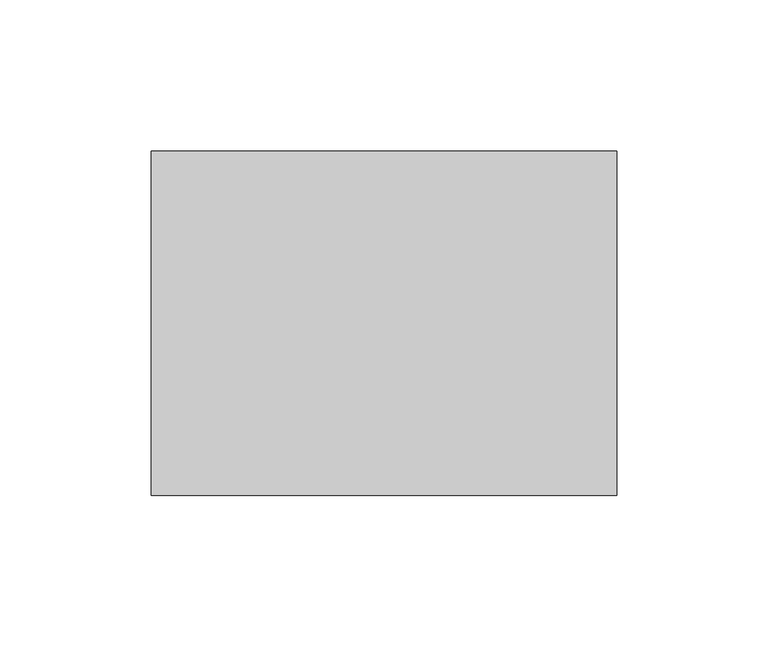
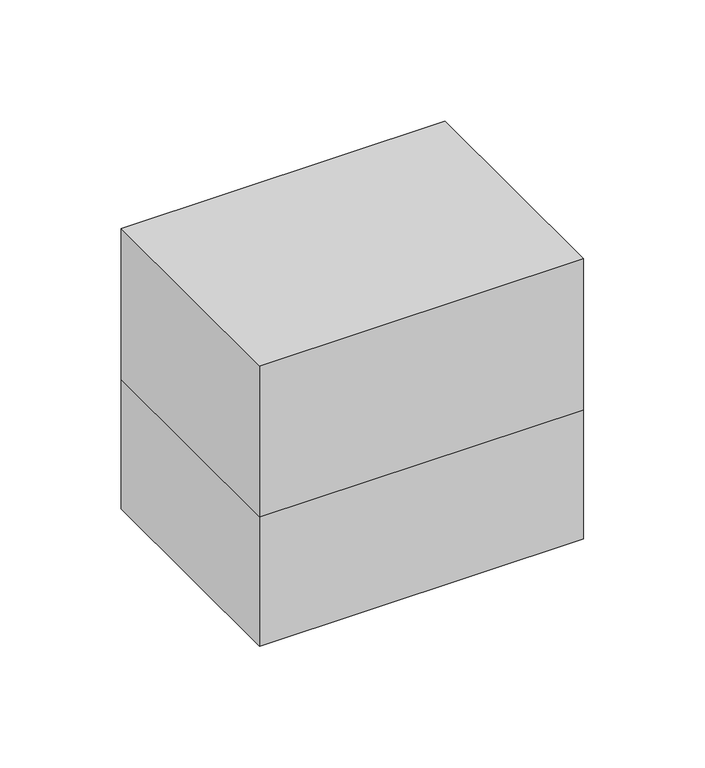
"""IFC4 building model written with IfcOpenShell, lengths in millimetres: cable carrier fitting geometry."""

from ifc_helpers import new_model, si_unit, origin, place, context, project, spatial, faceted_brep, source, transform, mapped, element, save


def cable_carrier_fitting_05f6cc3a(model_context):
    return source(origin(), model_context, "Body", "Brep", [
        faceted_brep([(77.0, 57.0, 141.0), (-77.0, 57.0, 141.0), (-77.0, -57.0, 141.0), (77.0, -57.0, 141.0), (-75.0, -55.0, 139.0), (-75.0, 55.0, 139.0), (75.0, 55.0, 139.0), (75.0, -55.0, 139.0), (77.0, 57.0, 65.0), (77.0, -57.0, 65.0), (-77.0, -57.0, 65.0), (-77.0, 57.0, 65.0), (-75.0, -55.0, 65.0), (75.0, -55.0, 65.0), (75.0, 55.0, 65.0), (-75.0, 55.0, 65.0)], [[[0, 1, 2, 3]], [[4, 5, 6, 7]], [[8, 9, 10, 11], [12, 13, 14, 15]], [[1, 0, 8, 11]], [[2, 1, 11, 10]], [[3, 2, 10, 9]], [[0, 3, 9, 8]], [[12, 15, 5, 4]], [[15, 14, 6, 5]], [[14, 13, 7, 6]], [[13, 12, 4, 7]]]),
        faceted_brep([(-75.0, -55.0, 2.0), (75.0, -55.0, 2.0), (75.0, 55.0, 2.0), (-75.0, 55.0, 2.0), (77.0, 57.0, 0.0), (77.0, -57.0, 0.0), (-77.0, -57.0, 0.0), (-77.0, 57.0, 0.0), (77.0, 57.0, 65.0), (-77.0, 57.0, 65.0), (-77.0, -57.0, 65.0), (77.0, -57.0, 65.0), (75.0, -55.0, 65.0), (-75.0, -55.0, 65.0), (-75.0, 55.0, 65.0), (75.0, 55.0, 65.0)], [[[0, 1, 2, 3]], [[4, 5, 6, 7]], [[8, 9, 10, 11], [12, 13, 14, 15]], [[9, 8, 4, 7]], [[10, 9, 7, 6]], [[11, 10, 6, 5]], [[8, 11, 5, 4]], [[13, 12, 1, 0]], [[14, 13, 0, 3]], [[15, 14, 3, 2]], [[12, 15, 2, 1]]]),
    ])


if __name__ == "__main__":
    model = new_model("IFC4")
    model_context = context("Model", 3, world=origin())
    ifc_project = project(units=[si_unit("LENGTHUNIT", "METRE", prefix="MILLI")], contexts=[model_context])
    site = spatial("IfcSite", under=ifc_project)
    building = spatial("IfcBuilding", under=site)
    placement = place(None, origin())
    cable_carrier_fitting_shape = cable_carrier_fitting_05f6cc3a(model_context)
    element("IfcCableCarrierFitting", 1, at=placement, inside=building, context=model_context, shape_type="MappedRepresentation", body=[
        mapped(cable_carrier_fitting_shape, transform((0.0, 0.0, 0.0), x_axis=(1.0, 0.0, 0.0), y_axis=(0.0, 1.0, 0.0), z_axis=(0.0, 0.0, 1.0))),
    ])
    save(model, "model.ifc")
